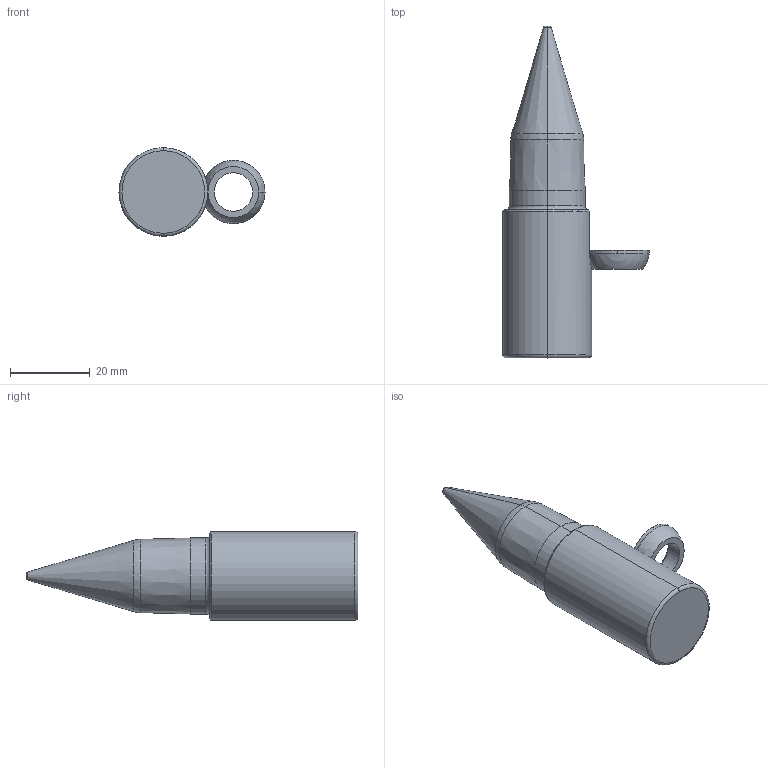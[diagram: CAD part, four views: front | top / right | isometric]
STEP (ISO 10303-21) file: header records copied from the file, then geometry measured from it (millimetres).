
FILE_DESCRIPTION (( 'STEP AP214' ), '1' );
FILE_NAME ('PA-T-.750-.150-0.5-3-A-F1.STEP', '2019-05-08T17:43:07', ( '' ), ( '' ), 'SwSTEP 2.0', 'SolidWorks 2017', '' );
FILE_SCHEMA (( 'AUTOMOTIVE_DESIGN' ));
Length unit declared in the file: inch
Products named in the file (3): SLPilot-PA-T-E_PA-T-.750-.150-0.5-3-A-F1; SLRadiusWasher_RadiusWasher-E; PA-T-.750-.150-0.5-3-A-F1
Assembly tree (2 placements, depth 2):
  PA-T-.750-.150-0.5-3-A-F1
    SLPilot-PA-T-E_PA-T-.750-.150-0.5-3-A-F1
    SLRadiusWasher_RadiusWasher-E
Bounding box: 36.63 x 83.19 x 22.23 mm (x, y, z)
Volume: 22556.1 mm3; surface area: 5565.8 mm2
Topology: 2 solids, 2 shells, 35 faces, 77 edges, 46 vertices
Faces by surface type: torus 11, cylinder 9, cone 6, plane 5, sphere 4
Entity records: 1164 total; most frequent: CARTESIAN_POINT 230, DIRECTION 208, ORIENTED_EDGE 154, AXIS2_PLACEMENT_3D 96, EDGE_CURVE 77, CIRCLE 56, VERTEX_POINT 46, EDGE_LOOP 37
